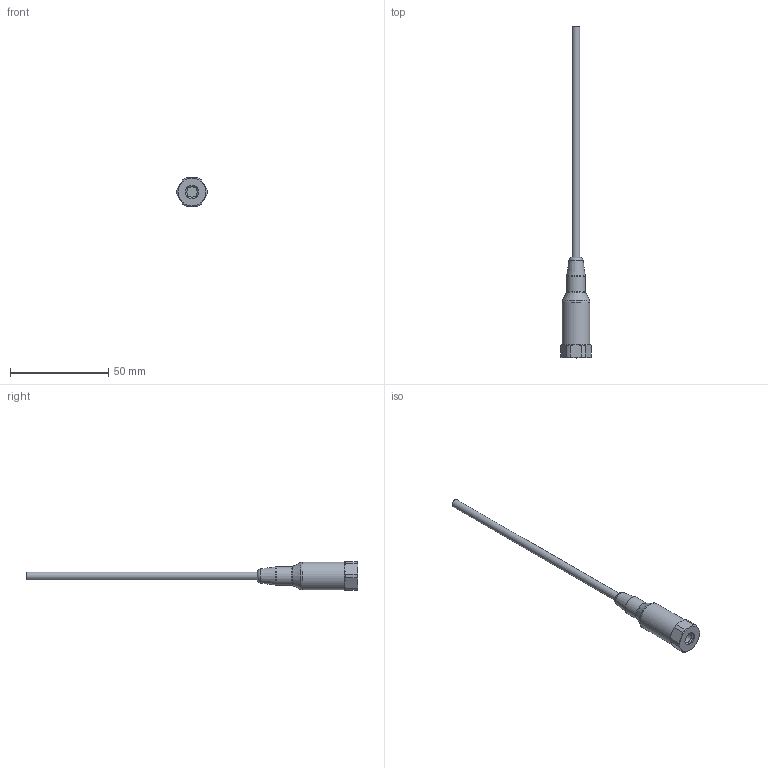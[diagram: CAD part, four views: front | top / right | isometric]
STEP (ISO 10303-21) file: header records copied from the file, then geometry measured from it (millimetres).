
FILE_DESCRIPTION(/* description */ (''),/* implementation_level */ '2;1');
FILE_NAME(/* name */ 'C:\Users\jfriend\Desktop\----Step files\Meredith Christman\608A11\608A11.stp',/* time_stamp */ '2019-12-11T10:34:04-05:00',/* author */ ('jfriend'),/* organization */ (''),/* preprocessor_version */ 'ST-DEVELOPER v17',/* originating_system */ 'Autodesk Inventor 2019',/* authorisation */ '');
FILE_SCHEMA (('AUTOMOTIVE_DESIGN { 1 0 10303 214 3 1 1 }'));
Length unit declared in the file: inch
Products named in the file (1): 608A11 ENVELOPE
Bounding box: 15.49 x 168.99 x 14.3 mm (x, y, z)
Volume: 7623.5 mm3; surface area: 3805.1 mm2
Topology: 1 solids, 1 shells, 36 faces, 106 edges, 74 vertices
Faces by surface type: cylinder 11, plane 10, cone 10, torus 5
Full cylindrical faces by diameter (mm): 4.064 x1, 5.359 x1, 6.807 x1, 9.398 x1, 14.224 x1
Entity records: 1347 total; most frequent: CARTESIAN_POINT 284, DIRECTION 215, ORIENTED_EDGE 212, EDGE_CURVE 106, AXIS2_PLACEMENT_3D 97, VERTEX_POINT 74, CIRCLE 60, EDGE_LOOP 38
